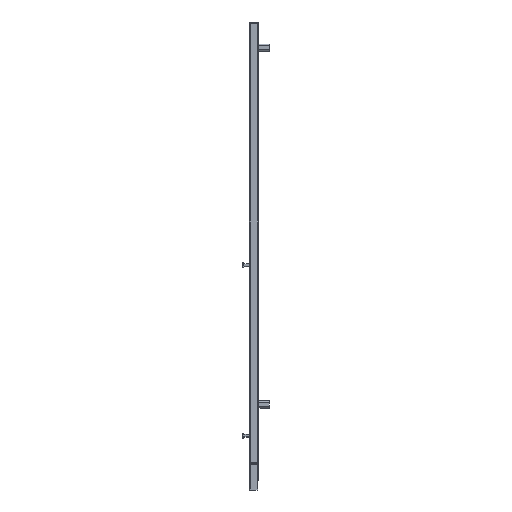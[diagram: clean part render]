
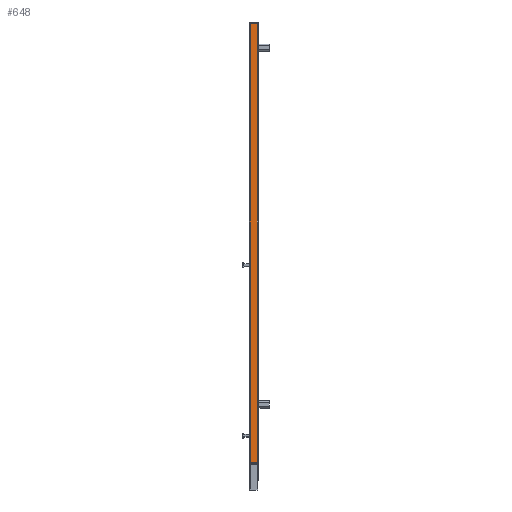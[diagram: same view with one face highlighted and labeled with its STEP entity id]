
A CAD part, front view. The second image highlights one B-rep face of the part: STEP entity #648.
In plain terms, the highlighted planar face has unit normal (0, -1, 0) as drawn and (-1, 0, 0) by its records, which use the part's own axes.
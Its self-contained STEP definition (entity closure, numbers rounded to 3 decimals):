
#648 = ADVANCED_FACE( '', ( #1397 ), #1398, .T. );
#1397 = FACE_OUTER_BOUND( '', #2311, .T. );
#1398 = PLANE( '', #2312 );
#2311 = EDGE_LOOP( '', ( #4124, #4125, #4126, #4127 ) );
#2312 = AXIS2_PLACEMENT_3D( '', #4128, #4129, #4130 );
#4124 = ORIENTED_EDGE( '', *, *, #5660, .F. );
#4125 = ORIENTED_EDGE( '', *, *, #5818, .T. );
#4126 = ORIENTED_EDGE( '', *, *, #5581, .T. );
#4127 = ORIENTED_EDGE( '', *, *, #5444, .T. );
#4128 = CARTESIAN_POINT( '', ( -15., 15., -1551. ) );
#4129 = DIRECTION( '', ( -1., 0., 0. ) );
#4130 = DIRECTION( '', ( 0., -1., 0. ) );
#5444 = EDGE_CURVE( '', #6582, #6586, #6588, .T. );
#5581 = EDGE_CURVE( '', #6817, #6582, #6818, .T. );
#5660 = EDGE_CURVE( '', #6951, #6586, #6953, .T. );
#5818 = EDGE_CURVE( '', #6951, #6817, #7185, .F. );
#6582 = VERTEX_POINT( '', #8250 );
#6586 = VERTEX_POINT( '', #8255 );
#6588 = LINE( '', #8257, #8258 );
#6817 = VERTEX_POINT( '', #8748 );
#6818 = LINE( '', #8749, #8750 );
#6951 = VERTEX_POINT( '', #8921 );
#6953 = LINE( '', #8923, #8924 );
#7185 = LINE( '', #9232, #9233 );
#8250 = CARTESIAN_POINT( '', ( -15., -12., -1551. ) );
#8255 = CARTESIAN_POINT( '', ( -15., -12., 0. ) );
#8257 = CARTESIAN_POINT( '', ( -15., -12., -1551. ) );
#8258 = VECTOR( '', #10555, 1000. );
#8748 = CARTESIAN_POINT( '', ( -15., 12., -1551. ) );
#8749 = CARTESIAN_POINT( '', ( -15., 15., -1551. ) );
#8750 = VECTOR( '', #10714, 1000. );
#8921 = CARTESIAN_POINT( '', ( -15., 12., 0. ) );
#8923 = CARTESIAN_POINT( '', ( -15., 15., 0. ) );
#8924 = VECTOR( '', #10837, 1000. );
#9232 = CARTESIAN_POINT( '', ( -15., 12., -1551. ) );
#9233 = VECTOR( '', #11046, 1000. );
#10555 = DIRECTION( '', ( 0., 0., 1. ) );
#10714 = DIRECTION( '', ( 0., -1., 0. ) );
#10837 = DIRECTION( '', ( 0., -1., 0. ) );
#11046 = DIRECTION( '', ( 0., 0., 1. ) );
